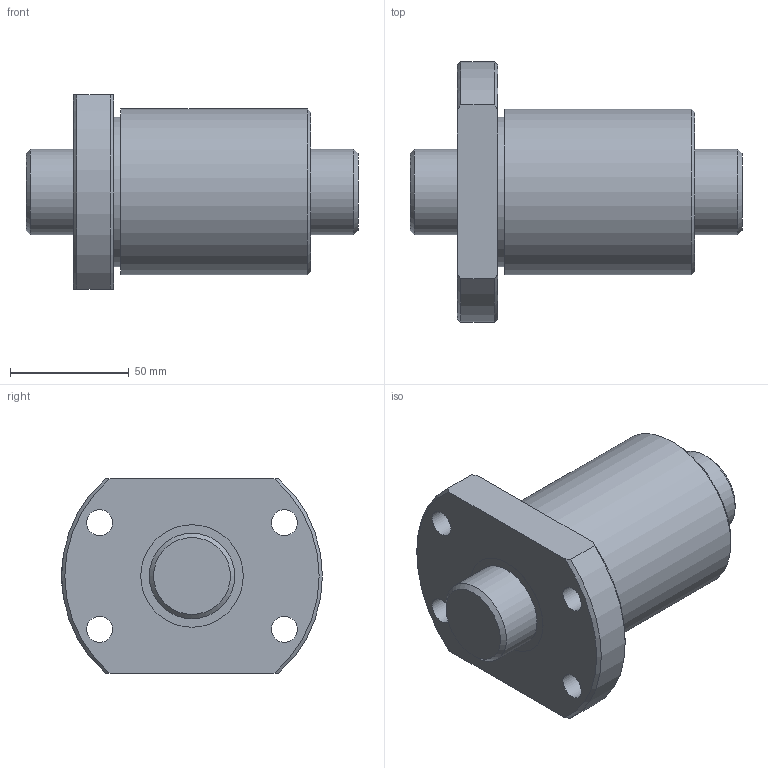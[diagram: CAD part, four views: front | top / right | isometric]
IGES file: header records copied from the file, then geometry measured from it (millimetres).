
Start section: Data from Parasolid IGES Translator 26.0.171, Copyright(c) 2006 Siemens PLM Software. All Rights Reserved.
Global section: file name: BTK3610V-5.3ZZ+140LC7T_000.igs; native system: By Siemens PLM Incorporated; preprocessor: XPlus GENERIC/IGES 26.0.171; author: Noname; organization: Noname; date: 20250116.075817; units: millimetre
Bounding box: 140 x 110 x 82 mm (x, y, z)
Surface area: 70006 mm2 (no closed solid volume)
Topology: 0 solids, 0 shells, 31 faces, 142 edges, 126 vertices
Faces by surface type: revolution 21, extrusion 10
